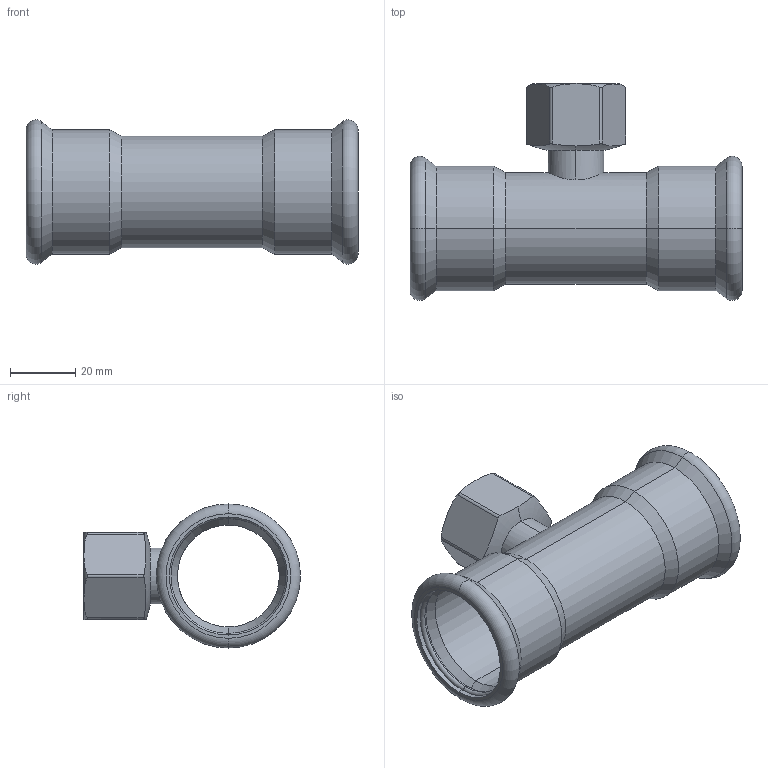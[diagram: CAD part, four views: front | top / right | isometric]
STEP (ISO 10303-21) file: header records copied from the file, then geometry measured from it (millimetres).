
FILE_DESCRIPTION (( 'STEP AP214' ), '1' );
FILE_NAME ('T35200F.STEP', '2025-08-17T14:03:24', ( '' ), ( '' ), 'SwSTEP 2.0', 'SolidWorks 2020', '' );
FILE_SCHEMA (( 'AUTOMOTIVE_DESIGN' ));
Length unit declared in the file: millimetre
Products named in the file (1): T35200F
Bounding box: 102 x 66.65 x 44.3 mm (x, y, z)
Volume: 24524.9 mm3; surface area: 31069.5 mm2
Topology: 3 solids, 3 shells, 104 faces, 249 edges, 150 vertices
Faces by surface type: cylinder 51, torus 20, cone 18, plane 12, bspline 3
Entity records: 6348 total; most frequent: CARTESIAN_POINT 2897, ORIENTED_EDGE 498, DIRECTION 454, EDGE_CURVE 249, AXIS2_PLACEMENT_3D 188, VERTEX_POINT 150, EDGE_LOOP 111, UNCERTAINTY_MEASURE_WITH_UNIT 109
